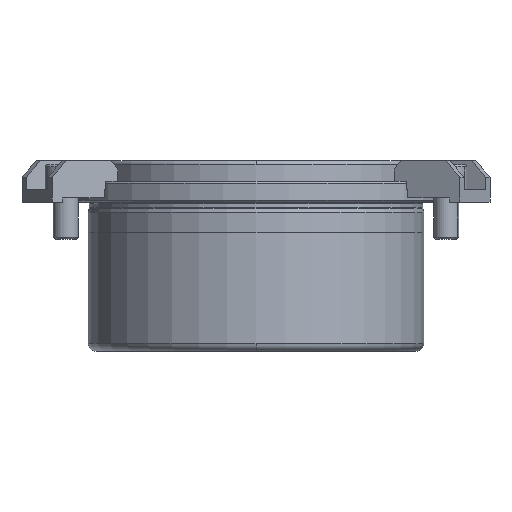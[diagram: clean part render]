
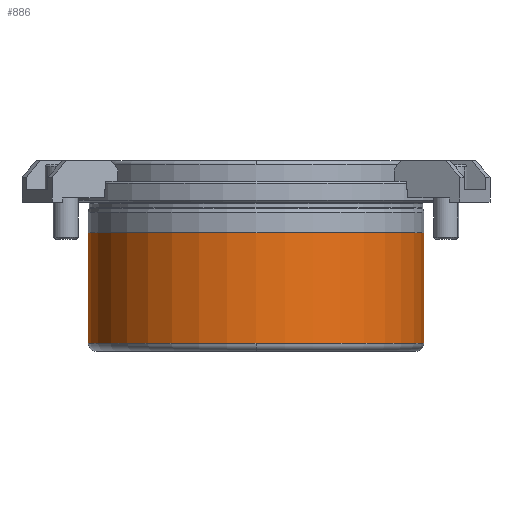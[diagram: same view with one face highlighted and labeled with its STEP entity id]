
A CAD part, front view. The second image highlights one B-rep face of the part: STEP entity #886.
In plain terms, the highlighted cylindrical face has radius 40.496 mm (diameter 80.992 mm), a partial arc.
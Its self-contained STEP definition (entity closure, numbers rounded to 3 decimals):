
#836=CARTESIAN_POINT('',(0.0,0.,-20.7));
#837=DIRECTION('',(0.0,0.,1.0));
#838=DIRECTION('',(1.0,0.0,0.0));
#839=AXIS2_PLACEMENT_3D('',#836,#837,#838);
#840=CYLINDRICAL_SURFACE('',#839,40.496);
#841=CARTESIAN_POINT('',(40.496,0.,-7.4));
#842=VERTEX_POINT('',#841);
#843=CARTESIAN_POINT('',(40.496,0.,-34.));
#844=VERTEX_POINT('',#843);
#845=CARTESIAN_POINT('',(40.496,0.,-7.4));
#846=DIRECTION('',(0.0,0.0,-1.0));
#847=VECTOR('',#846,26.6);
#848=LINE('',#845,#847);
#849=EDGE_CURVE('',#842,#844,#848,.T.);
#850=ORIENTED_EDGE('',*,*,#849,.F.);
#851=CARTESIAN_POINT('',(-40.496,0.,-7.4));
#852=VERTEX_POINT('',#851);
#853=CARTESIAN_POINT('',(0.0,0.,-7.4));
#854=DIRECTION('',(0.0,0.0,1.0));
#855=DIRECTION('',(1.0,0.0,0.0));
#856=AXIS2_PLACEMENT_3D('',#853,#854,#855);
#857=CIRCLE('',#856,40.496);
#858=EDGE_CURVE('',#852,#842,#857,.T.);
#859=ORIENTED_EDGE('',*,*,#858,.F.);
#860=CARTESIAN_POINT('',(-40.496,0.,-34.0));
#861=VERTEX_POINT('',#860);
#862=CARTESIAN_POINT('',(-40.496,0.,-7.4));
#863=DIRECTION('',(0.0,0.0,-1.0));
#864=VECTOR('',#863,26.6);
#865=LINE('',#862,#864);
#866=EDGE_CURVE('',#852,#861,#865,.T.);
#867=ORIENTED_EDGE('',*,*,#866,.T.);
#868=CARTESIAN_POINT('',(0.0,-40.496,-34.));
#869=VERTEX_POINT('',#868);
#870=CARTESIAN_POINT('',(0.0,0.,-34.));
#871=DIRECTION('',(0.0,0.0,1.0));
#872=DIRECTION('',(1.0,0.0,0.0));
#873=AXIS2_PLACEMENT_3D('',#870,#871,#872);
#874=CIRCLE('',#873,40.496);
#875=EDGE_CURVE('',#861,#869,#874,.T.);
#876=ORIENTED_EDGE('',*,*,#875,.T.);
#877=CARTESIAN_POINT('',(0.0,0.,-34.));
#878=DIRECTION('',(0.0,0.0,1.0));
#879=DIRECTION('',(1.0,0.0,0.0));
#880=AXIS2_PLACEMENT_3D('',#877,#878,#879);
#881=CIRCLE('',#880,40.496);
#882=EDGE_CURVE('',#869,#844,#881,.T.);
#883=ORIENTED_EDGE('',*,*,#882,.T.);
#884=EDGE_LOOP('',(#850,#859,#867,#876,#883));
#885=FACE_OUTER_BOUND('',#884,.T.);
#886=ADVANCED_FACE('',(#885),#840,.T.);
